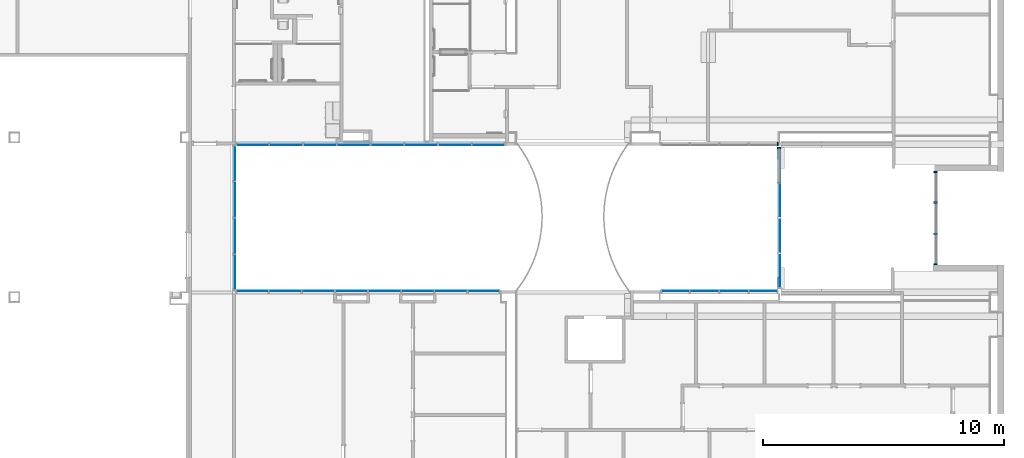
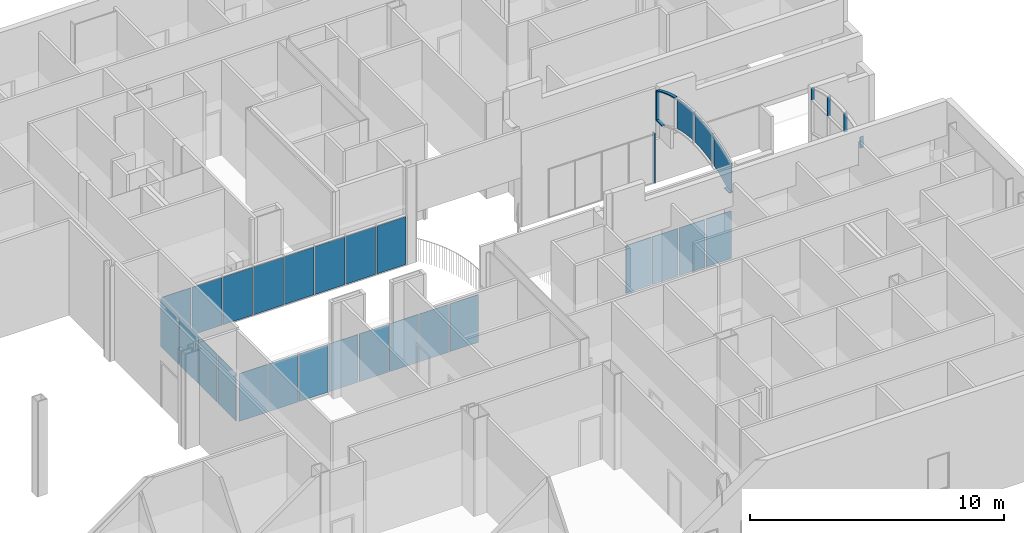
# One storey, part 4 of 47: 27 plates, 9 members, 7 elements without a shape of their own.
"""IFC2X3 building model written with IfcOpenShell, lengths in metres."""

from ifc_helpers import new_model, entity, si_unit, converted_unit, frame, frame_2d, origin, origin_2d_with_axis, place, context, project, spatial, polyline, circle_curve, parameter, trimmed, segment, composite_curve, rectangle, outline, extrude, source, transform, mapped, material, type_object, type_shapes, element, aggregate, save


model = new_model("IFC2X3")

# Units and contexts
model_context = context("Model", 3, precision=1e-09, world=origin())
plan_context = context("Plan", 3, precision=1e-09, world=origin())
ifc_project = project(units=[si_unit("LENGTHUNIT", "METRE"), si_unit("AREAUNIT", "SQUARE_METRE"), si_unit("VOLUMEUNIT", "CUBIC_METRE"), converted_unit("PLANEANGLEUNIT", "DEGREE", entity("IfcRatioMeasure", 0.01745329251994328), si_unit("PLANEANGLEUNIT", "RADIAN"), dimensions=[0, 0, 0, 0, 0, 0, 0]), si_unit("TIMEUNIT", "SECOND")], contexts=[model_context, plan_context])

# Site, building, storey
site_placement = place(None, origin())
site = spatial("IfcSite", under=ifc_project, at=site_placement, Name="Default", CompositionType="ELEMENT")
building_placement = place(site_placement, origin())
building = spatial("IfcBuilding", under=site, at=building_placement, CompositionType="ELEMENT")
storey_placement = place(building_placement, frame((0.0, 0.0, 4.570000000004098)))
storey = spatial("IfcBuildingStorey", under=building, at=storey_placement, Name="Second Floor", CompositionType="ELEMENT", Elevation=4.570000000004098)

# Curtain wall, member
curtain_wall_1_placement = place(storey_placement, origin())
curtain_wall_1 = element("IfcCurtainWall", 1, at=curtain_wall_1_placement, inside=storey, Name="Curtain Wall:Storefront", ObjectType="Curtain Wall:Storefront")
ifc_material_1 = material(Name="Metal - Aluminium")
member_type_1 = type_object("IfcMemberType", Name="50 x 150mm", PredefinedType="MULLION")
shared_shape_1 = source(origin(), model_context, "Body", "SweptSolid", [
    extrude(rectangle(XDim=0.05, YDim=0.15, at=origin_2d_with_axis()), frame((-0.025, 0.0, -2.399999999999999), z_axis=(0.0, 0.0, 1.0), x_axis=(-1.0, 0.0, 0.0)), (0.0, 0.0, 1.0), 2.399999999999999),
])
type_shapes(member_type_1, [shared_shape_1])
member_1_placement = place(storey_placement, frame((-8.981726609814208, 34.7718015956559, 2.399999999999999)))
member_1 = element("IfcMember", 2, at=member_1_placement, type_object=member_type_1, material=ifc_material_1, Name="Rectangular Mullion:50 x 150mm:50 x 150mm", ObjectType="50 x 150mm", context=model_context, shape_type="MappedRepresentation", body=[
    mapped(shared_shape_1, transform((0.0, 0.0, 0.0), scale=1.0)),
])
aggregate(curtain_wall_1, [member_1])

# Curtain wall, members
curtain_wall_2_placement = place(storey_placement, origin())
curtain_wall_2 = element("IfcCurtainWall", 3, at=curtain_wall_2_placement, inside=storey, Name="Curtain Wall:Storefront", ObjectType="Curtain Wall:Storefront")
member_type_2 = type_object("IfcMemberType", Name="50 x 150mm", PredefinedType="MULLION")
shared_shape_2 = source(origin(), model_context, "Body", "SweptSolid", [
    extrude(outline(polyline([(-0.2900392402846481, -0.025), (0.2739732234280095, -0.025), (0.2739732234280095, 0.025), (-0.2579072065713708, 0.025), (-0.2900392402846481, -0.025)])), frame((-0.025, -0.07499999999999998, -0.2900392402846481), z_axis=(0.0, 1.0, 0.0), x_axis=(0.0, 0.0, -1.0)), (0.0, 0.0, 1.0), 0.15),
])
type_shapes(member_type_2, [shared_shape_2])
member_2_placement = place(storey_placement, frame((-2.454499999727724, 33.62999999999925, 2.964012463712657), z_axis=(0.0, 0.0, 1.0), x_axis=(0.0, 1.0, 0.0)))
member_2 = element("IfcMember", 4, at=member_2_placement, type_object=member_type_2, material=ifc_material_1, Name="Rectangular Mullion:50 x 150mm:50 x 150mm", ObjectType="50 x 150mm", context=model_context, shape_type="MappedRepresentation", body=[
    mapped(shared_shape_2, transform((0.0, 0.0, 0.0), scale=1.0)),
])
member_type_3 = type_object("IfcMemberType", Name="50 x 150mm", PredefinedType="MULLION")
shared_shape_3 = source(origin(), model_context, "Body", "SweptSolid", [
    extrude(outline(polyline([(-0.2739732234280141, -0.025), (0.290039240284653, -0.025), (0.2579072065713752, 0.025), (-0.2739732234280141, 0.025), (-0.2739732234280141, -0.025)])), frame((-0.025, -0.07499999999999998, -0.2739732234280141), z_axis=(0.0, 1.0, 0.0), x_axis=(0.0, 0.0, -1.0)), (0.0, 0.0, 1.0), 0.15),
])
type_shapes(member_type_3, [shared_shape_3])
member_3_placement = place(storey_placement, frame((-2.45449999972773, 29.75999999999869, 2.399999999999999), z_axis=(0.0, 0.0, -1.0), x_axis=(0.0, -1.0, 0.0)))
member_3 = element("IfcMember", 5, at=member_3_placement, type_object=member_type_3, material=ifc_material_1, Name="Rectangular Mullion:50 x 150mm:50 x 150mm", ObjectType="50 x 150mm", context=model_context, shape_type="MappedRepresentation", body=[
    mapped(shared_shape_3, transform((0.0, 0.0, 0.0), scale=1.0)),
])
member_type_4 = type_object("IfcMemberType", Name="50 x 150mm", PredefinedType="MULLION")
shared_shape_4 = source(origin(), model_context, "Body", "SweptSolid", [
    extrude(outline(composite_curve([segment(polyline([(-0.5929958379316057, -0.02535299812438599), (0.3000759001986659, -0.02535299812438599)]), True, "CONTINUOUS"), segment(trimmed(circle_curve(frame_2d((-4.265720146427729, -0.6453529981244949), x_axis=(0.9903651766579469, -0.1384803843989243)), 4.607699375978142), [parameter(15.69294883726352)], [parameter(15.91984435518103)], True, "PARAMETER"), True, "CONTINUOUS"), segment(polyline([(0.297584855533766, -0.007276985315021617), (0.2953238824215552, 0.008688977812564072)]), True, "CONTINUOUS"), segment(polyline([(0.2953238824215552, 0.008688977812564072), (0.2930070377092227, 0.02464700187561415)]), True, "CONTINUOUS"), segment(polyline([(0.2930070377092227, 0.02464700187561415), (-0.5929958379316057, 0.02464700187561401)]), True, "CONTINUOUS"), segment(polyline([(-0.5929958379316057, 0.02464700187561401), (-0.5929958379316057, -0.02535299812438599)]), True, "CONTINUOUS")], self_intersect=False)), frame((-0.0003529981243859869, -0.07499999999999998, -0.5929958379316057), z_axis=(0.0, 1.0, 0.0), x_axis=(0.0, 0.0, -1.0)), (0.0, 0.0, 1.0), 0.15),
])
type_shapes(member_type_4, [shared_shape_4])
member_4_placement = place(storey_placement, frame((-2.454499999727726, 32.33999999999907, 2.399999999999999), z_axis=(0.0, 0.0, -1.0), x_axis=(0.0, -1.0, 0.0)))
member_4 = element("IfcMember", 6, at=member_4_placement, type_object=member_type_4, material=ifc_material_1, Name="Rectangular Mullion:50 x 150mm:50 x 150mm", ObjectType="50 x 150mm", context=model_context, shape_type="MappedRepresentation", body=[
    mapped(shared_shape_4, transform((0.0, 0.0, 0.0), scale=1.0)),
])
member_type_5 = type_object("IfcMemberType", Name="50 x 150mm", PredefinedType="MULLION")
shared_shape_5 = source(origin(), model_context, "Body", "SweptSolid", [
    extrude(outline(composite_curve([segment(polyline([(-0.5935817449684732, -0.02881412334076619), (0.2924211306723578, -0.02881412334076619)]), True, "CONTINUOUS"), segment(trimmed(circle_curve(frame_2d((-4.266306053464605, 0.6411858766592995), x_axis=(0.9096200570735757, -0.4154411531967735)), 4.607699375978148), [parameter(16.18614893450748)], [parameter(16.58717889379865)], True, "PARAMETER"), True, "CONTINUOUS"), segment(polyline([(0.2969989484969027, 0.00310986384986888), (0.2982534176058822, 0.01214662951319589)]), True, "CONTINUOUS"), segment(polyline([(0.2982534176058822, 0.01214662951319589), (0.2994899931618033, 0.02118587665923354)]), True, "CONTINUOUS"), segment(polyline([(0.2994899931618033, 0.02118587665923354), (-0.5935817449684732, 0.02118587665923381)]), True, "CONTINUOUS"), segment(polyline([(-0.5935817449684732, 0.02118587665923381), (-0.5935817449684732, -0.02881412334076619)]), True, "CONTINUOUS")], self_intersect=False)), frame((-0.003814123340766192, -0.07499999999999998, -0.5935817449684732), z_axis=(0.0, 1.0, 0.0), x_axis=(0.0, 0.0, -1.0)), (0.0, 0.0, 1.0), 0.15),
])
type_shapes(member_type_5, [shared_shape_5])
member_5_placement = place(storey_placement, frame((-2.454499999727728, 31.04999999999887, 2.399999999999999), z_axis=(0.0, 0.0, -1.0), x_axis=(0.0, -1.0, 0.0)))
member_5 = element("IfcMember", 7, at=member_5_placement, type_object=member_type_5, material=ifc_material_1, Name="Rectangular Mullion:50 x 150mm:50 x 150mm", ObjectType="50 x 150mm", context=model_context, shape_type="MappedRepresentation", body=[
    mapped(shared_shape_5, transform((0.0, 0.0, 0.0), scale=1.0)),
])
aggregate(curtain_wall_2, [member_2, member_3, member_4, member_5])

curtain_wall_3_placement = place(storey_placement, origin())
curtain_wall_3 = element("IfcCurtainWall", 8, at=curtain_wall_3_placement, inside=storey, Name="Curtain Wall:Storefront", ObjectType="Curtain Wall:Storefront")
member_type_6 = type_object("IfcMemberType", Name="50 x 150mm", PredefinedType="MULLION")
shared_shape_6 = source(origin(), model_context, "Body", "SweptSolid", [
    extrude(outline(polyline([(-0.7321871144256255, -0.025), (0.7168681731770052, -0.025), (0.7168681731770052, 0.025), (-0.7015492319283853, 0.025), (-0.7321871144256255, -0.025)])), frame((-0.025, -0.07499999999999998, -0.7321871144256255), z_axis=(0.0, 1.0, 0.0), x_axis=(0.0, 0.0, -1.0)), (0.0, 0.0, 1.0), 0.15),
])
type_shapes(member_type_6, [shared_shape_6])
member_6_placement = place(storey_placement, frame((-8.945999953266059, 34.62999999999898, 4.51905528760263), z_axis=(0.0, 0.0, 1.0), x_axis=(0.0, 1.0, 0.0)))
member_6 = element("IfcMember", 9, at=member_6_placement, type_object=member_type_6, material=ifc_material_1, Name="Rectangular Mullion:50 x 150mm:50 x 150mm", ObjectType="50 x 150mm", context=model_context, shape_type="MappedRepresentation", body=[
    mapped(shared_shape_6, transform((0.0, 0.0, 0.0), scale=1.0)),
])
member_type_7 = type_object("IfcMemberType", Name="50 x 150mm", PredefinedType="MULLION")
shared_shape_7 = source(origin(), model_context, "Body", "SweptSolid", [
    extrude(outline(polyline([(-0.218101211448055, -0.025), (0.2246902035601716, -0.025), (0.2115122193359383, 0.025), (-0.218101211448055, 0.025), (-0.218101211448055, -0.025)])), frame((-0.025, -0.07499999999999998, -0.2181012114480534), z_axis=(0.0, 1.0, 0.0), x_axis=(0.0, 0.0, -1.0)), (0.0, 0.0, 1.0), 0.15),
])
type_shapes(member_type_7, [shared_shape_7])
member_7_placement = place(storey_placement, frame((-8.945999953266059, 34.57999999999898, 3.069999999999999), z_axis=(0.0, 1.0, 0.0), x_axis=(0.0, 0.0, -1.0)))
member_7 = element("IfcMember", 10, at=member_7_placement, type_object=member_type_7, material=ifc_material_1, Name="Rectangular Mullion:50 x 150mm:50 x 150mm", ObjectType="50 x 150mm", context=model_context, shape_type="MappedRepresentation", body=[
    mapped(shared_shape_7, transform((0.0, 0.0, 0.0), scale=1.0)),
])
member_type_8 = type_object("IfcMemberType", Name="50 x 150mm", PredefinedType="MULLION")
shared_shape_8 = source(origin(), model_context, "Body", "SweptSolid", [
    extrude(outline(composite_curve([segment(trimmed(circle_curve(frame_2d((5.012852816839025, 3.985204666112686), x_axis=(-0.7029639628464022, -0.7112254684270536)), 6.475000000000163), [parameter(346.1634926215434)], [parameter(359.9999999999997)], True, "PARAMETER"), True, "CONTINUOUS"), segment(polyline([(0.4611611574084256, -0.6199802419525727), (0.4963093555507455, -0.5844189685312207)]), True, "CONTINUOUS"), segment(trimmed(circle_curve(frame_2d((5.012852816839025, 3.985204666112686), x_axis=(-0.7029639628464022, -0.7112254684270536)), 6.425000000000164), [parameter(346.4371113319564)], [parameter(359.9999999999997)], True, "PARAMETER"), False, "CONTINUOUS"), segment(polyline([(-0.4493721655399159, 0.6021996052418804), (-0.508098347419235, 0.6021996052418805)]), True, "CONTINUOUS")], self_intersect=False)), frame((-0.1167660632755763, -0.07499999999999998, -0.7638133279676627), z_axis=(0.0, -1.0, 0.0), x_axis=(-0.7029639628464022, 0.0, 0.7112254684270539)), (0.0, 0.0, -1.0), 0.15),
])
type_shapes(member_type_8, [shared_shape_8])
member_8_placement = place(storey_placement, frame((-8.94599995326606, 33.16499999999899, 5.054744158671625), z_axis=(0.0, -0.9737099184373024, 0.2277915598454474), x_axis=(0.0, 0.2277915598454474, 0.9737099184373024)))
member_8 = element("IfcMember", 11, at=member_8_placement, type_object=member_type_8, material=ifc_material_1, Name="Rectangular Mullion:50 x 150mm:50 x 150mm", ObjectType="50 x 150mm", context=model_context, shape_type="MappedRepresentation", body=[
    mapped(shared_shape_8, transform((0.0, 0.0, 0.0), scale=1.0)),
])
member_type_9 = type_object("IfcMemberType", Name="50 x 150mm", PredefinedType="MULLION")
shared_shape_9 = source(origin(), model_context, "Body", "SweptSolid", [
    extrude(outline(polyline([(-0.2147398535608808, -0.025), (0.2081508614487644, -0.025), (0.2081508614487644, 0.025), (-0.2015618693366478, 0.025), (-0.2147398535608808, -0.025)])), frame((-0.025, -0.07499999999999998, -0.2147398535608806), z_axis=(0.0, 1.0, 0.0), x_axis=(0.0, 0.0, -1.0)), (0.0, 0.0, 1.0), 0.15),
])
type_shapes(member_type_9, [shared_shape_9])
member_9_placement = place(storey_placement, frame((-8.945999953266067, 29.24289071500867, 3.070000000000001), z_axis=(0.0, 1.0, 0.0), x_axis=(0.0, 0.0, -1.0)))
member_9 = element("IfcMember", 12, at=member_9_placement, type_object=member_type_9, material=ifc_material_1, Name="Rectangular Mullion:50 x 150mm:50 x 150mm", ObjectType="50 x 150mm", context=model_context, shape_type="MappedRepresentation", body=[
    mapped(shared_shape_9, transform((0.0, 0.0, 0.0), scale=1.0)),
])

# Curtain wall, plates
curtain_wall_4_placement = place(storey_placement, origin())
curtain_wall_4 = element("IfcCurtainWall", 13, at=curtain_wall_4_placement, inside=storey, Name="Curtain Wall:Storefront", ObjectType="Curtain Wall:Storefront")
ifc_material_2 = material(Name="Glass")
plate_type_1 = type_object("IfcPlateType", Name="Glazed", PredefinedType="CURTAIN_PANEL")
shared_shape_10 = source(origin(), model_context, "Body", "SweptSolid", [
    extrude(rectangle(XDim=0.025, YDim=1.436041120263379, at=origin_2d_with_axis()), frame((0.0, 0.03699999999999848, 0.0), z_axis=(0.0, 0.0, 1.0), x_axis=(0.0, 1.0, 0.0)), (0.0, 0.0, 1.0), 2.3),
])
type_shapes(plate_type_1, [shared_shape_10])
plate_1_placement = place(storey_placement, frame((-31.5510000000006, 33.96634232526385, 0.05), z_axis=(0.0, 0.0, 1.0), x_axis=(0.0, -1.0, 0.0)))
plate_1 = element("IfcPlate", 14, at=plate_1_placement, type_object=plate_type_1, material=ifc_material_2, Name="System Panel:Glazed:Glazed", ObjectType="Glazed", context=model_context, shape_type="MappedRepresentation", body=[
    mapped(shared_shape_10, transform((0.0, 0.0, 0.0), scale=1.0)),
])
plate_2_placement = place(storey_placement, frame((-31.55100000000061, 29.45821896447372, 0.05), z_axis=(0.0, 0.0, 1.0), x_axis=(0.0, -1.0, 0.0)))
plate_2 = element("IfcPlate", 15, at=plate_2_placement, type_object=plate_type_1, material=ifc_material_2, Name="System Panel:Glazed:Glazed", ObjectType="Glazed", context=model_context, shape_type="MappedRepresentation", body=[
    mapped(shared_shape_10, transform((0.0, 0.0, 0.0), scale=1.0)),
])
plate_type_2 = type_object("IfcPlateType", Name="Glazed", PredefinedType="CURTAIN_PANEL")
shared_shape_11 = source(origin(), model_context, "Body", "SweptSolid", [
    extrude(rectangle(XDim=0.025, YDim=1.461041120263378, at=origin_2d_with_axis()), frame((0.0, 0.03700000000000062, 0.0), z_axis=(0.0, 0.0, 1.0), x_axis=(0.0, 1.0, 0.0)), (0.0, 0.0, 1.0), 2.3),
])
type_shapes(plate_type_2, [shared_shape_11])
plate_3_placement = place(storey_placement, frame((-31.55100000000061, 32.46780120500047, 0.05), z_axis=(0.0, 0.0, 1.0), x_axis=(0.0, -1.0, 0.0)))
plate_3 = element("IfcPlate", 16, at=plate_3_placement, type_object=plate_type_2, material=ifc_material_2, Name="System Panel:Glazed:Glazed", ObjectType="Glazed", context=model_context, shape_type="MappedRepresentation", body=[
    mapped(shared_shape_11, transform((0.0, 0.0, 0.0), scale=1.0)),
])
plate_4_placement = place(storey_placement, frame((-31.55100000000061, 30.9567600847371, 0.05), z_axis=(0.0, 0.0, 1.0), x_axis=(0.0, -1.0, 0.0)))
plate_4 = element("IfcPlate", 17, at=plate_4_placement, type_object=plate_type_2, material=ifc_material_2, Name="System Panel:Glazed:Glazed", ObjectType="Glazed", context=model_context, shape_type="MappedRepresentation", body=[
    mapped(shared_shape_11, transform((0.0, 0.0, 0.0), scale=1.0)),
])
aggregate(curtain_wall_4, [plate_1, plate_3, plate_4, plate_2])

curtain_wall_5_placement = place(storey_placement, origin())
curtain_wall_5 = element("IfcCurtainWall", 18, at=curtain_wall_5_placement, inside=storey, Name="Curtain Wall:Storefront", ObjectType="Curtain Wall:Storefront")
plate_type_3 = type_object("IfcPlateType", Name="Glazed", PredefinedType="CURTAIN_PANEL")
shared_shape_12 = source(origin(), model_context, "Body", "SweptSolid", [
    extrude(rectangle(XDim=0.025, YDim=1.324875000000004, at=origin_2d_with_axis()), frame((0.0, 0.03700000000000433, 0.0), z_axis=(0.0, 0.0, 1.0), x_axis=(0.0, 1.0, 0.0)), (0.0, 0.0, 1.0), 2.3),
])
type_shapes(plate_type_3, [shared_shape_12])
plate_5_placement = place(storey_placement, frame((-21.00243750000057, 34.77180159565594, 0.05), z_axis=(0.0, 0.0, 1.0), x_axis=(-1.0, 0.0, 0.0)))
plate_5 = element("IfcPlate", 19, at=plate_5_placement, type_object=plate_type_3, material=ifc_material_2, Name="System Panel:Glazed:Glazed", ObjectType="Glazed", context=model_context, shape_type="MappedRepresentation", body=[
    mapped(shared_shape_12, transform((0.0, 0.0, 0.0), scale=1.0)),
])
plate_6_placement = place(storey_placement, frame((-30.7765625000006, 34.77180159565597, 0.05), z_axis=(0.0, 0.0, 1.0), x_axis=(-1.0, 0.0, 0.0)))
plate_6 = element("IfcPlate", 20, at=plate_6_placement, type_object=plate_type_3, material=ifc_material_2, Name="System Panel:Glazed:Glazed", ObjectType="Glazed", context=model_context, shape_type="MappedRepresentation", body=[
    mapped(shared_shape_12, transform((0.0, 0.0, 0.0), scale=1.0)),
])
plate_type_4 = type_object("IfcPlateType", Name="Glazed", PredefinedType="CURTAIN_PANEL")
shared_shape_13 = source(origin(), model_context, "Body", "SweptSolid", [
    extrude(rectangle(XDim=0.025, YDim=1.349875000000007, at=origin_2d_with_axis()), frame((0.0, 0.03700000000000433, 0.0), z_axis=(0.0, 0.0, 1.0), x_axis=(0.0, 1.0, 0.0)), (0.0, 0.0, 1.0), 2.3),
])
type_shapes(plate_type_4, [shared_shape_13])
plate_7_placement = place(storey_placement, frame((-22.38981250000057, 34.77180159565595, 0.05), z_axis=(0.0, 0.0, 1.0), x_axis=(-1.0, 0.0, 0.0)))
plate_7 = element("IfcPlate", 21, at=plate_7_placement, type_object=plate_type_4, material=ifc_material_2, Name="System Panel:Glazed:Glazed", ObjectType="Glazed", context=model_context, shape_type="MappedRepresentation", body=[
    mapped(shared_shape_13, transform((0.0, 0.0, 0.0), scale=1.0)),
])
plate_8_placement = place(storey_placement, frame((-23.78968750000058, 34.77180159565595, 0.05), z_axis=(0.0, 0.0, 1.0), x_axis=(-1.0, 0.0, 0.0)))
plate_8 = element("IfcPlate", 22, at=plate_8_placement, type_object=plate_type_4, material=ifc_material_2, Name="System Panel:Glazed:Glazed", ObjectType="Glazed", context=model_context, shape_type="MappedRepresentation", body=[
    mapped(shared_shape_13, transform((0.0, 0.0, 0.0), scale=1.0)),
])
plate_9_placement = place(storey_placement, frame((-25.18956250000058, 34.77180159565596, 0.05), z_axis=(0.0, 0.0, 1.0), x_axis=(-1.0, 0.0, 0.0)))
plate_9 = element("IfcPlate", 23, at=plate_9_placement, type_object=plate_type_4, material=ifc_material_2, Name="System Panel:Glazed:Glazed", ObjectType="Glazed", context=model_context, shape_type="MappedRepresentation", body=[
    mapped(shared_shape_13, transform((0.0, 0.0, 0.0), scale=1.0)),
])
plate_10_placement = place(storey_placement, frame((-26.58943750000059, 34.77180159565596, 0.05), z_axis=(0.0, 0.0, 1.0), x_axis=(-1.0, 0.0, 0.0)))
plate_10 = element("IfcPlate", 24, at=plate_10_placement, type_object=plate_type_4, material=ifc_material_2, Name="System Panel:Glazed:Glazed", ObjectType="Glazed", context=model_context, shape_type="MappedRepresentation", body=[
    mapped(shared_shape_13, transform((0.0, 0.0, 0.0), scale=1.0)),
])
plate_11_placement = place(storey_placement, frame((-27.98931250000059, 34.77180159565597, 0.05), z_axis=(0.0, 0.0, 1.0), x_axis=(-1.0, 0.0, 0.0)))
plate_11 = element("IfcPlate", 25, at=plate_11_placement, type_object=plate_type_4, material=ifc_material_2, Name="System Panel:Glazed:Glazed", ObjectType="Glazed", context=model_context, shape_type="MappedRepresentation", body=[
    mapped(shared_shape_13, transform((0.0, 0.0, 0.0), scale=1.0)),
])
plate_12_placement = place(storey_placement, frame((-29.3891875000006, 34.77180159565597, 0.05), z_axis=(0.0, 0.0, 1.0), x_axis=(-1.0, 0.0, 0.0)))
plate_12 = element("IfcPlate", 26, at=plate_12_placement, type_object=plate_type_4, material=ifc_material_2, Name="System Panel:Glazed:Glazed", ObjectType="Glazed", context=model_context, shape_type="MappedRepresentation", body=[
    mapped(shared_shape_13, transform((0.0, 0.0, 0.0), scale=1.0)),
])
aggregate(curtain_wall_5, [plate_5, plate_7, plate_8, plate_9, plate_10, plate_11, plate_12, plate_6])

# Plate
plate_type_5 = type_object("IfcPlateType", Name="Glazed", PredefinedType="CURTAIN_PANEL")
shared_shape_14 = source(origin(), model_context, "Body", "SweptSolid", [
    extrude(outline(composite_curve([segment(polyline([(-0.8241447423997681, -0.7074999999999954), (0.634290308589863, -0.7074999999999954)]), True, "CONTINUOUS"), segment(trimmed(circle_curve(frame_2d((-5.624964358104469, 0.7424503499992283), x_axis=(0.9999988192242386, -0.001536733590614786)), 6.424999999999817), [parameter(347.0455801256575)], [parameter(359.7763725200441)], True, "PARAMETER"), True, "CONTINUOUS"), segment(polyline([(0.7999405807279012, 0.7074999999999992), (-0.6100861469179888, 0.7074999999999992)]), True, "CONTINUOUS"), segment(trimmed(circle_curve(frame_2d((-5.624964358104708, 0.7424503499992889), x_axis=(0.9548558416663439, -0.2970695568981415)), 5.015000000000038), [parameter(0.4762378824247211)], [parameter(16.88237181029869)], True, "PARAMETER"), False, "CONTINUOUS")], self_intersect=False)), frame((0.0, 0.02450000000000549, 0.8241447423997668), z_axis=(0.0, 1.0, 0.0), x_axis=(0.0, 0.0, 1.0)), (0.0, 0.0, 1.0), 0.025),
])
type_shapes(plate_type_5, [shared_shape_14])
plate_13_placement = place(storey_placement, frame((-8.94599995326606, 32.432499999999, 3.550792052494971), z_axis=(0.0, 0.0, 1.0), x_axis=(0.0, -1.0, 0.0)))
plate_13 = element("IfcPlate", 27, at=plate_13_placement, type_object=plate_type_5, material=ifc_material_2, Name="System Panel:Glazed:Glazed", ObjectType="Glazed", context=model_context, shape_type="MappedRepresentation", body=[
    mapped(shared_shape_14, transform((0.0, 0.0, 0.0), scale=1.0)),
])

plate_type_6 = type_object("IfcPlateType", Name="Glazed", PredefinedType="CURTAIN_PANEL")
shared_shape_15 = source(origin(), model_context, "Body", "SweptSolid", [
    extrude(outline(composite_curve([segment(trimmed(circle_curve(frame_2d((-5.627644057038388, 0.7225496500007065), x_axis=(0.9999979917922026, 0.00200409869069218)), 5.015000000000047), [parameter(343.3170915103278)], [parameter(359.7132328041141)], True, "PARAMETER"), False, "CONTINUOUS"), segment(polyline([(-0.8208589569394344, -0.7075000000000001), (0.6361872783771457, -0.7075000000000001)]), True, "CONTINUOUS"), segment(trimmed(circle_curve(frame_2d((-5.627644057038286, 0.7225496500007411), x_axis=(0.9744238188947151, -0.2247180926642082)), 6.424999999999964), [parameter(0.125933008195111)], [parameter(12.85209420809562)], True, "PARAMETER"), True, "CONTINUOUS"), segment(polyline([(0.7973383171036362, 0.7074999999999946), (-0.6126666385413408, 0.7074999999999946)]), True, "CONTINUOUS")], self_intersect=False)), frame((0.0, 0.02450000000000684, 0.820858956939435), z_axis=(0.0, -1.0, 0.0), x_axis=(0.0, 0.0, 1.0)), (0.0, 0.0, -1.0), 0.02499999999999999),
])
type_shapes(plate_type_6, [shared_shape_15])
plate_14_placement = place(storey_placement, frame((-8.945999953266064, 30.96749999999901, 3.556757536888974), z_axis=(0.0, 0.0, 1.0), x_axis=(0.0, -1.0, 0.0)))
plate_14 = element("IfcPlate", 28, at=plate_14_placement, type_object=plate_type_6, material=ifc_material_2, Name="System Panel:Glazed:Glazed", ObjectType="Glazed", context=model_context, shape_type="MappedRepresentation", body=[
    mapped(shared_shape_15, transform((0.0, 0.0, 0.0), scale=1.0)),
])

plate_type_7 = type_object("IfcPlateType", Name="Glazed", PredefinedType="CURTAIN_PANEL")
shared_shape_16 = source(origin(), model_context, "Body", "SweptSolid", [
    extrude(outline(composite_curve([segment(polyline([(-0.6372077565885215, -0.4339978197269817), (-0.5171264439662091, -0.8257552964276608)]), True, "CONTINUOUS"), segment(polyline([(-0.5171264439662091, -0.8257552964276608), (0.800671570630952, -0.4218244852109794)]), True, "CONTINUOUS"), segment(trimmed(circle_curve(frame_2d((-5.536382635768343, 0.6375946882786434), x_axis=(0.9855122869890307, -0.1696040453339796)), 6.425000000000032), [parameter(0.2739454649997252)], [parameter(13.48797753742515)], True, "PARAMETER"), True, "CONTINUOUS"), segment(polyline([(0.8750569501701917, 1.054808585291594), (-0.5213943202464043, 0.6267690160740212)]), True, "CONTINUOUS"), segment(trimmed(circle_curve(frame_2d((-5.536382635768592, 0.6375946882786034), x_axis=(1.0, 0.0)), 5.015000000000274), [parameter(347.6620511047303)], [parameter(359.8763178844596)], True, "PARAMETER"), False, "CONTINUOUS")], self_intersect=False)), frame((0.05705039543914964, 0.02450000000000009, 0.7364182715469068), z_axis=(0.0, -1.0, 0.0), x_axis=(0.2930613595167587, 0.0, 0.9560936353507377)), (0.0, 0.0, -1.0), 0.02499999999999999),
])
type_shapes(plate_type_7, [shared_shape_16])
plate_15_placement = place(storey_placement, frame((-8.945999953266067, 29.51499999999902, 3.119999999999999), z_axis=(0.0, 0.0, 1.0), x_axis=(0.0, -1.0, 0.0)))
plate_15 = element("IfcPlate", 29, at=plate_15_placement, type_object=plate_type_7, material=ifc_material_2, Name="System Panel:Glazed:Glazed", ObjectType="Glazed", context=model_context, shape_type="MappedRepresentation", body=[
    mapped(shared_shape_16, transform((0.0, 0.0, 0.0), scale=1.0)),
])

aggregate(curtain_wall_3, [plate_13, plate_14, plate_15, member_6, member_7, member_8, member_9])

# Curtain wall, plates
curtain_wall_6_placement = place(storey_placement, origin())
curtain_wall_6 = element("IfcCurtainWall", 30, at=curtain_wall_6_placement, inside=storey, Name="Curtain Wall:Storefront", ObjectType="Curtain Wall:Storefront")
plate_type_8 = type_object("IfcPlateType", Name="Glazed", PredefinedType="CURTAIN_PANEL")
shared_shape_17 = source(origin(), model_context, "Body", "SweptSolid", [
    extrude(rectangle(XDim=0.02500000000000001, YDim=1.298875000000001, at=origin_2d_with_axis()), frame((0.0, -0.037, 0.0), z_axis=(0.0, 0.0, 1.0), x_axis=(0.0, 1.0, 0.0)), (0.0, 0.0, 1.0), 2.3),
])
type_shapes(plate_type_8, [shared_shape_17])
plate_16_placement = place(storey_placement, frame((-21.1944375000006, 28.62819840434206, 0.05), z_axis=(0.0, 0.0, 1.0), x_axis=(-1.0, 0.0, 0.0)))
plate_16 = element("IfcPlate", 31, at=plate_16_placement, type_object=plate_type_8, material=ifc_material_2, Name="System Panel:Glazed:Glazed", ObjectType="Glazed", context=model_context, shape_type="MappedRepresentation", body=[
    mapped(shared_shape_17, transform((0.0, 0.0, 0.0), scale=1.0)),
])
plate_17_placement = place(storey_placement, frame((-30.78656250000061, 28.62819840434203, 0.05), z_axis=(0.0, 0.0, 1.0), x_axis=(-1.0, 0.0, 0.0)))
plate_17 = element("IfcPlate", 32, at=plate_17_placement, type_object=plate_type_8, material=ifc_material_2, Name="System Panel:Glazed:Glazed", ObjectType="Glazed", context=model_context, shape_type="MappedRepresentation", body=[
    mapped(shared_shape_17, transform((0.0, 0.0, 0.0), scale=1.0)),
])
plate_type_9 = type_object("IfcPlateType", Name="Glazed", PredefinedType="CURTAIN_PANEL")
shared_shape_18 = source(origin(), model_context, "Body", "SweptSolid", [
    extrude(rectangle(XDim=0.02500000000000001, YDim=1.323875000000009, at=origin_2d_with_axis()), frame((0.0, -0.03700000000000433, 0.0), z_axis=(0.0, 0.0, 1.0), x_axis=(0.0, 1.0, 0.0)), (0.0, 0.0, 1.0), 2.3),
])
type_shapes(plate_type_9, [shared_shape_18])
plate_18_placement = place(storey_placement, frame((-22.55581250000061, 28.62819840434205, 0.05), z_axis=(0.0, 0.0, 1.0), x_axis=(-1.0, 0.0, 0.0)))
plate_18 = element("IfcPlate", 33, at=plate_18_placement, type_object=plate_type_9, material=ifc_material_2, Name="System Panel:Glazed:Glazed", ObjectType="Glazed", context=model_context, shape_type="MappedRepresentation", body=[
    mapped(shared_shape_18, transform((0.0, 0.0, 0.0), scale=1.0)),
])
plate_19_placement = place(storey_placement, frame((-23.92968750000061, 28.62819840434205, 0.05), z_axis=(0.0, 0.0, 1.0), x_axis=(-1.0, 0.0, 0.0)))
plate_19 = element("IfcPlate", 34, at=plate_19_placement, type_object=plate_type_9, material=ifc_material_2, Name="System Panel:Glazed:Glazed", ObjectType="Glazed", context=model_context, shape_type="MappedRepresentation", body=[
    mapped(shared_shape_18, transform((0.0, 0.0, 0.0), scale=1.0)),
])
plate_20_placement = place(storey_placement, frame((-25.30356250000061, 28.62819840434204, 0.05), z_axis=(0.0, 0.0, 1.0), x_axis=(-1.0, 0.0, 0.0)))
plate_20 = element("IfcPlate", 35, at=plate_20_placement, type_object=plate_type_9, material=ifc_material_2, Name="System Panel:Glazed:Glazed", ObjectType="Glazed", context=model_context, shape_type="MappedRepresentation", body=[
    mapped(shared_shape_18, transform((0.0, 0.0, 0.0), scale=1.0)),
])
plate_21_placement = place(storey_placement, frame((-26.67743750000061, 28.62819840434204, 0.05), z_axis=(0.0, 0.0, 1.0), x_axis=(-1.0, 0.0, 0.0)))
plate_21 = element("IfcPlate", 36, at=plate_21_placement, type_object=plate_type_9, material=ifc_material_2, Name="System Panel:Glazed:Glazed", ObjectType="Glazed", context=model_context, shape_type="MappedRepresentation", body=[
    mapped(shared_shape_18, transform((0.0, 0.0, 0.0), scale=1.0)),
])
plate_22_placement = place(storey_placement, frame((-28.05131250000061, 28.62819840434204, 0.05), z_axis=(0.0, 0.0, 1.0), x_axis=(-1.0, 0.0, 0.0)))
plate_22 = element("IfcPlate", 37, at=plate_22_placement, type_object=plate_type_9, material=ifc_material_2, Name="System Panel:Glazed:Glazed", ObjectType="Glazed", context=model_context, shape_type="MappedRepresentation", body=[
    mapped(shared_shape_18, transform((0.0, 0.0, 0.0), scale=1.0)),
])
plate_23_placement = place(storey_placement, frame((-29.42518750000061, 28.62819840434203, 0.05), z_axis=(0.0, 0.0, 1.0), x_axis=(-1.0, 0.0, 0.0)))
plate_23 = element("IfcPlate", 38, at=plate_23_placement, type_object=plate_type_9, material=ifc_material_2, Name="System Panel:Glazed:Glazed", ObjectType="Glazed", context=model_context, shape_type="MappedRepresentation", body=[
    mapped(shared_shape_18, transform((0.0, 0.0, 0.0), scale=1.0)),
])
aggregate(curtain_wall_6, [plate_16, plate_18, plate_19, plate_20, plate_21, plate_22, plate_23, plate_17])

curtain_wall_7_placement = place(storey_placement, origin())
curtain_wall_7 = element("IfcCurtainWall", 39, at=curtain_wall_7_placement, inside=storey, Name="Curtain Wall:Storefront", ObjectType="Curtain Wall:Storefront")
plate_type_10 = type_object("IfcPlateType", Name="Glazed", PredefinedType="CURTAIN_PANEL")
shared_shape_19 = source(origin(), model_context, "Body", "SweptSolid", [
    extrude(rectangle(XDim=0.02500000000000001, YDim=1.147693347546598, at=origin_2d_with_axis()), frame((0.0, -0.037, 0.0), z_axis=(0.0, 0.0, 1.0), x_axis=(0.0, 1.0, 0.0)), (0.0, 0.0, 1.0), 2.3),
])
type_shapes(plate_type_10, [shared_shape_19])
plate_24_placement = place(storey_placement, frame((-9.605573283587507, 28.6281984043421, 0.05), z_axis=(0.0, 0.0, 1.0), x_axis=(-1.0, 0.0, 0.0)))
plate_24 = element("IfcPlate", 40, at=plate_24_placement, type_object=plate_type_10, material=ifc_material_2, Name="System Panel:Glazed:Glazed", ObjectType="Glazed", context=model_context, shape_type="MappedRepresentation", body=[
    mapped(shared_shape_19, transform((0.0, 0.0, 0.0), scale=1.0)),
])
plate_25_placement = place(storey_placement, frame((-13.2486533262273, 28.62819840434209, 0.05), z_axis=(0.0, 0.0, 1.0), x_axis=(-1.0, 0.0, 0.0)))
plate_25 = element("IfcPlate", 41, at=plate_25_placement, type_object=plate_type_10, material=ifc_material_2, Name="System Panel:Glazed:Glazed", ObjectType="Glazed", context=model_context, shape_type="MappedRepresentation", body=[
    mapped(shared_shape_19, transform((0.0, 0.0, 0.0), scale=1.0)),
])
plate_type_11 = type_object("IfcPlateType", Name="Glazed", PredefinedType="CURTAIN_PANEL")
shared_shape_20 = source(origin(), model_context, "Body", "SweptSolid", [
    extrude(rectangle(XDim=0.02500000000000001, YDim=1.172693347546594, at=origin_2d_with_axis()), frame((0.0, -0.037, 0.0), z_axis=(0.0, 0.0, 1.0), x_axis=(0.0, 1.0, 0.0)), (0.0, 0.0, 1.0), 2.3),
])
type_shapes(plate_type_11, [shared_shape_20])
plate_26_placement = place(storey_placement, frame((-10.8157666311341, 28.62819840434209, 0.05), z_axis=(0.0, 0.0, 1.0), x_axis=(-1.0, 0.0, 0.0)))
plate_26 = element("IfcPlate", 42, at=plate_26_placement, type_object=plate_type_11, material=ifc_material_2, Name="System Panel:Glazed:Glazed", ObjectType="Glazed", context=model_context, shape_type="MappedRepresentation", body=[
    mapped(shared_shape_20, transform((0.0, 0.0, 0.0), scale=1.0)),
])
plate_27_placement = place(storey_placement, frame((-12.0384599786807, 28.62819840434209, 0.05), z_axis=(0.0, 0.0, 1.0), x_axis=(-1.0, 0.0, 0.0)))
plate_27 = element("IfcPlate", 43, at=plate_27_placement, type_object=plate_type_11, material=ifc_material_2, Name="System Panel:Glazed:Glazed", ObjectType="Glazed", context=model_context, shape_type="MappedRepresentation", body=[
    mapped(shared_shape_20, transform((0.0, 0.0, 0.0), scale=1.0)),
])
aggregate(curtain_wall_7, [plate_24, plate_26, plate_27, plate_25])

save(model, "model.ifc")
